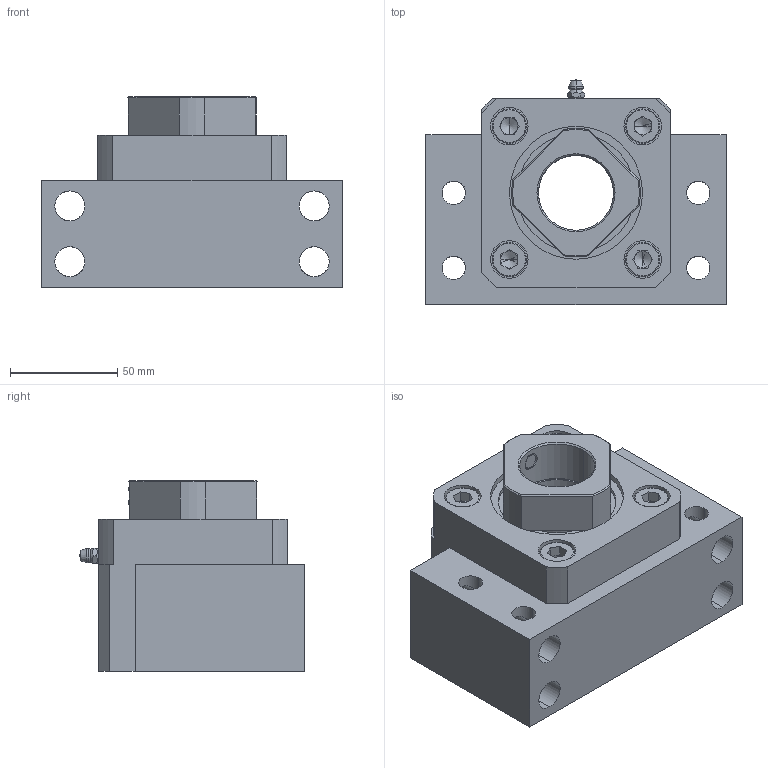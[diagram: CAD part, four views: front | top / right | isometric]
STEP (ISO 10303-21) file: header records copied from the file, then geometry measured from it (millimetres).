
FILE_DESCRIPTION (( 'STEP AP203' ), '1' );
FILE_NAME ('BK35G.STEP', '2018-09-15T02:12:38', ( '' ), ( '' ), 'SwSTEP 2.0', 'SolidWorks 2015', '' );
FILE_SCHEMA (( 'CONFIG_CONTROL_DESIGN' ));
Length unit declared in the file: millimetre
Products named in the file (1): BK35G
Bounding box: 140 x 104.9 x 89 mm (x, y, z)
Volume: 638759.6 mm3; surface area: 119071.1 mm2
Topology: 1 solids, 15 shells, 406 faces, 976 edges, 594 vertices
Faces by surface type: cylinder 153, plane 136, cone 62, torus 48, bspline 7
Entity records: 13443 total; most frequent: CARTESIAN_POINT 3831, DIRECTION 2091, ORIENTED_EDGE 1912, EDGE_CURVE 956, AXIS2_PLACEMENT_3D 844, VERTEX_POINT 594, EDGE_LOOP 474, CIRCLE 444
